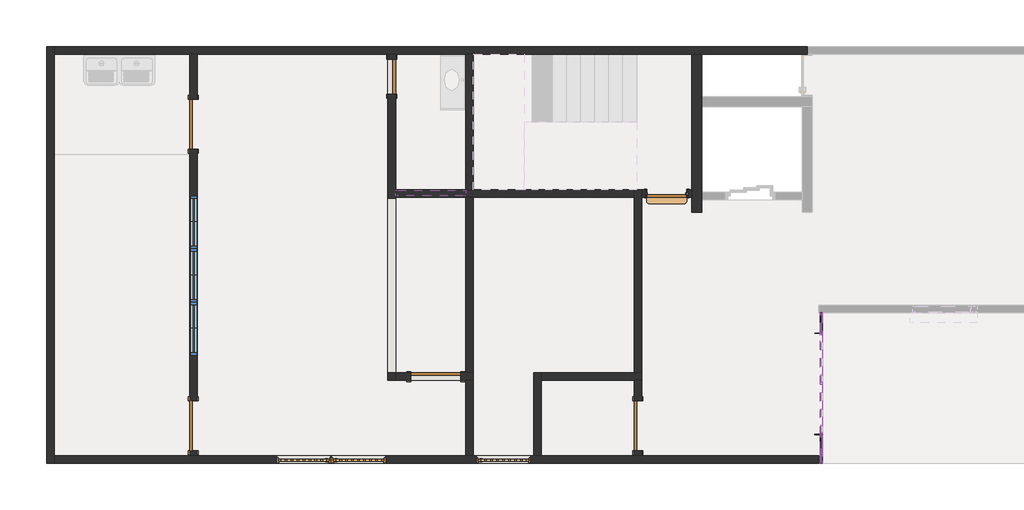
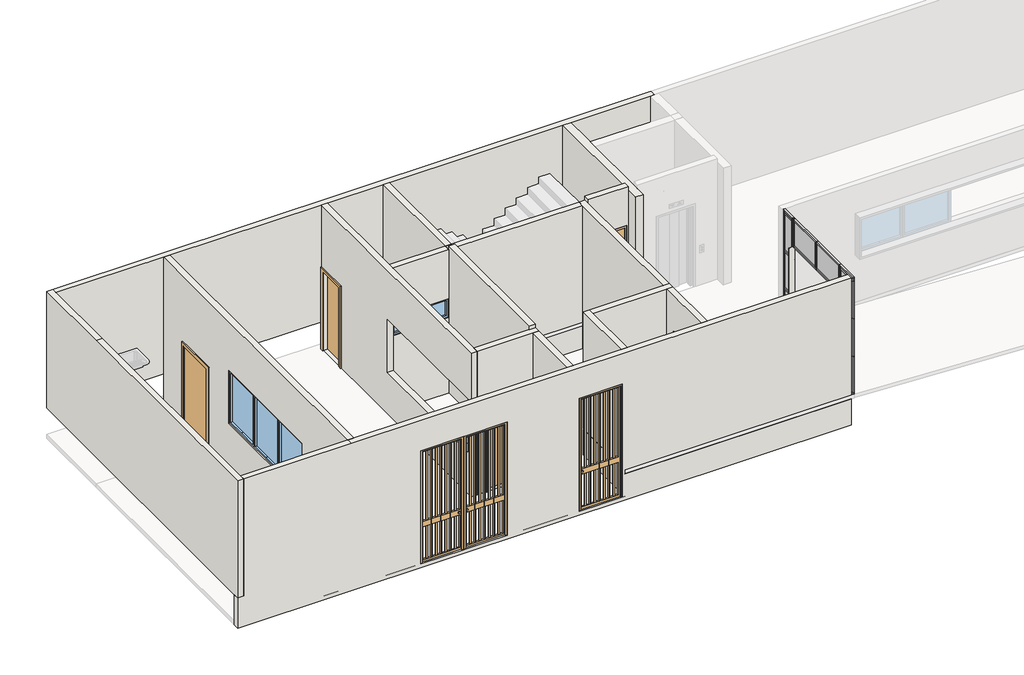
# One storey, part 1 of 3: 34 members, 18 walls, 10 plates, 9 doors, 4 windows.
"""IFC4 building model written with IfcOpenShell, lengths in millimetres."""

from ifc_helpers import new_model, si_unit, frame, origin, origin_with_axes, place, context, project, spatial, polyline, outline, extrude, faceted_brep, transform, mapped, element, save
from components import door_178cd8f4, door_f9ab2199, door_1000_x_2100_mm_661a7a0d, door_1000_x_2100_mm_77822ca1, door_700_x_2100_mm_6c6cf384, door_80_x_210_cm_69db3ced, rectangular_mullion_4x4_cm_offset_2cm_abfb5f02, rectangular_mullion_4x4_cm_offset_2cm_8188d6ec, rectangular_mullion_4x4_cm_offset_2cm_cc3df301, rectangular_mullion_4x4_cm_offset_2cm_a9974342, rectangular_mullion_4x4_cm_offset_2cm_97be8866, rectangular_mullion_4x4_cm_offset_2cm_e3c305ea, rectangular_mullion_4x4_cm_offset_2cm_8e4f37b2, rectangular_mullion_4x4_cm_offset_2cm_ccbd703a, rectangular_mullion_4x4_cm_offset_2cm_927117c5, rectangular_mullion_4x4_cm_offset_2cm_64f9428f, rectangular_mullion_4x4_cm_offset_2cm_845753c8, rectangular_mullion_4x4_cm_offset_2cm_22b40ebe, system_panel_vidro_2cm_738b5aa9, system_panel_vidro_2cm_fb46c9e9, system_panel_vidro_2cm_38d66d4f, system_panel_vidro_2cm_e86970eb, system_panel_vidro_2cm_c7f1786d, aluminum_exterior_window_2_wide_3886_1_06_x_1_40m_01332d29, aluminum_exterior_window_2_wide_3886_1_40_x_0_50m_8d64cb47

model = new_model("IFC4")

# Units and contexts
model_context = context("Model", 3, world=origin())
ifc_project = project(units=[si_unit("LENGTHUNIT", "METRE", prefix="MILLI")], contexts=[model_context])

# Site, building, storey
site = spatial("IfcSite", under=ifc_project)
building = spatial("IfcBuilding", under=site)
storey = spatial("IfcBuildingStorey", under=building, Name="PLANTA BAIXA TÉRREO", Elevation=800.0)

# Doors
placement = place(None, origin())
door_shape = door_178cd8f4(model_context)
element("IfcDoor", 1, ObjectType="Portão_metalico : Portão_metalico 1,00 x 3,00m", at=placement, inside=storey, context=model_context, shape_type="MappedRepresentation", body=[
    mapped(door_shape, transform((-8304.6326345, -10966.1116245, 100.0), x_axis=(1.0, 0.0, 0.0), y_axis=(0.0, 1.0, 0.0), z_axis=(0.0, 0.0, 1.0))),
])
element("IfcDoor", 2, ObjectType="Portão_metalico : Portão_metalico 1,00 x 3,00m - Manutenção", at=placement, inside=storey, context=model_context, shape_type="MappedRepresentation", body=[
    mapped(door_shape, transform((-11189.6326345, -10966.1116245, 100.0), x_axis=(1.0, 0.0, 0.0), y_axis=(0.0, 1.0, 0.0), z_axis=(0.0, 0.0, 1.0))),
])
door_2_shape = door_f9ab2199(model_context)
element("IfcDoor", 3, ObjectType="Portão_metalico : Portão_metalico 1,00 x 3,00m - Manutenção", at=placement, inside=storey, context=model_context, shape_type="MappedRepresentation", body=[
    mapped(door_2_shape, transform((-12279.6326345, -10966.1116245, 100.0), x_axis=(-1.0, 0.0, 0.0), y_axis=(0.0, -1.0, 0.0), z_axis=(0.0, 0.0, 1.0))),
])
door_1000_x_2100_mm_shape = door_1000_x_2100_mm_661a7a0d(model_context)
element("IfcDoor", 4, ObjectType="M_Folha única : 1000 x 2100 mm", at=placement, inside=storey, context=model_context, shape_type="MappedRepresentation", body=[
    mapped(door_1000_x_2100_mm_shape, transform((-5629.6326345, -10291.1116245, 800.0), x_axis=(0.0, -1.0, 0.0), y_axis=(1.0, 0.0, 0.0), z_axis=(0.0, 0.0, 1.0))),
])
element("IfcDoor", 5, ObjectType="M_Folha única : 1000 x 2100 mm", at=placement, inside=storey, context=model_context, shape_type="MappedRepresentation", body=[
    mapped(door_1000_x_2100_mm_shape, transform((-14479.6326345, -10291.1116245, 0.0), x_axis=(0.0, -1.0, 0.0), y_axis=(1.0, 0.0, 0.0), z_axis=(0.0, 0.0, 1.0))),
])
door_1000_x_2100_mm_2_shape = door_1000_x_2100_mm_77822ca1(model_context)
element("IfcDoor", 6, ObjectType="M_Folha única : 1000 x 2100 mm", at=placement, inside=storey, context=model_context, shape_type="MappedRepresentation", body=[
    mapped(door_1000_x_2100_mm_2_shape, transform((-9654.6326345, -9316.1116245, 100.0), x_axis=(1.0, 0.0, 0.0), y_axis=(0.0, 1.0, 0.0), z_axis=(0.0, 0.0, 1.0))),
])
element("IfcDoor", 7, ObjectType="M_Folha única : 1000 x 2100 mm", at=placement, inside=storey, context=model_context, shape_type="MappedRepresentation", body=[
    mapped(door_1000_x_2100_mm_2_shape, transform((-14479.6326345, -4291.1116245, 0.0), x_axis=(0.0, 1.0, 0.0), y_axis=(-1.0, 0.0, 0.0), z_axis=(0.0, 0.0, 1.0))),
])
door_700_x_2100_mm_shape = door_700_x_2100_mm_6c6cf384(model_context)
element("IfcDoor", 8, ObjectType="M_Folha única : 700 x 2100 mm", at=placement, inside=storey, context=model_context, shape_type="MappedRepresentation", body=[
    mapped(door_700_x_2100_mm_shape, transform((-10529.6326345, -3341.1116245, 100.0), x_axis=(0.0, 1.0, 0.0), y_axis=(-1.0, 0.0, 0.0), z_axis=(0.0, 0.0, 1.0))),
])
door_80_x_210_cm_shape = door_80_x_210_cm_69db3ced(model_context)
element("IfcDoor", 9, ObjectType="Dutch_door_-_2_stacked_leaves_2298 : 80 x 210 cm", at=placement, inside=storey, context=model_context, shape_type="MappedRepresentation", body=[
    mapped(door_80_x_210_cm_shape, transform((-5054.6326345, -5666.1116245, 800.0), x_axis=(-1.0, 0.0, 0.0), y_axis=(0.0, -1.0, 0.0), z_axis=(0.0, 0.0, 1.0))),
])

# Members
rectangular_mullion_4x4_cm_offset_2cm_shape = rectangular_mullion_4x4_cm_offset_2cm_abfb5f02(model_context)
element("IfcMember", 10, ObjectType="Rectangular Mullion : 4x4 cm - offset 2cm", at=placement, inside=storey, context=model_context, shape_type="MappedRepresentation", body=[
    mapped(rectangular_mullion_4x4_cm_offset_2cm_shape, transform((-1954.6326345, -8041.1116245, 840.0), x_axis=(0.0, 1.0, 0.0), y_axis=(1.0, 0.0, 0.0), z_axis=(0.0, 0.0, -1.0))),
])
element("IfcMember", 11, ObjectType="Rectangular Mullion : 4x4 cm - offset 2cm", at=placement, inside=storey, context=model_context, shape_type="MappedRepresentation", body=[
    mapped(rectangular_mullion_4x4_cm_offset_2cm_shape, transform((-1954.6326345, -10471.1116245, 840.0), x_axis=(0.0, 1.0, 0.0), y_axis=(1.0, 0.0, 0.0), z_axis=(0.0, 0.0, -1.0))),
])
rectangular_mullion_4x4_cm_offset_2cm_2_shape = rectangular_mullion_4x4_cm_offset_2cm_8188d6ec(model_context)
element("IfcMember", 12, ObjectType="Rectangular Mullion : 4x4 cm - offset 2cm", at=placement, inside=storey, context=model_context, shape_type="MappedRepresentation", body=[
    mapped(rectangular_mullion_4x4_cm_offset_2cm_2_shape, transform((-1954.6326345, -8451.1116245, 3860.0), x_axis=(0.0, -1.0, 0.0), y_axis=(1.0, 0.0, 0.0), z_axis=(0.0, 0.0, 1.0))),
])
element("IfcMember", 13, ObjectType="Rectangular Mullion : 4x4 cm - offset 2cm", at=placement, inside=storey, context=model_context, shape_type="MappedRepresentation", body=[
    mapped(rectangular_mullion_4x4_cm_offset_2cm_2_shape, transform((-1954.6326345, -11041.1116245, 3860.0), x_axis=(0.0, -1.0, 0.0), y_axis=(1.0, 0.0, 0.0), z_axis=(0.0, 0.0, 1.0))),
])
rectangular_mullion_4x4_cm_offset_2cm_3_shape = rectangular_mullion_4x4_cm_offset_2cm_cc3df301(model_context)
element("IfcMember", 14, ObjectType="Rectangular Mullion : 4x4 cm - offset 2cm", at=placement, inside=storey, context=model_context, shape_type="MappedRepresentation", body=[
    mapped(rectangular_mullion_4x4_cm_offset_2cm_3_shape, transform((-1954.6326345, -8041.1116245, 1800.0), x_axis=(0.0, 1.0, 0.0), y_axis=(1.0, 0.0, 0.0), z_axis=(0.0, 0.0, -1.0))),
])
element("IfcMember", 15, ObjectType="Rectangular Mullion : 4x4 cm - offset 2cm", at=placement, inside=storey, context=model_context, shape_type="MappedRepresentation", body=[
    mapped(rectangular_mullion_4x4_cm_offset_2cm_3_shape, transform((-1954.6326345, -8041.1116245, 2800.0), x_axis=(0.0, 1.0, 0.0), y_axis=(1.0, 0.0, 0.0), z_axis=(0.0, 0.0, -1.0))),
])
element("IfcMember", 16, ObjectType="Rectangular Mullion : 4x4 cm - offset 2cm", at=placement, inside=storey, context=model_context, shape_type="MappedRepresentation", body=[
    mapped(rectangular_mullion_4x4_cm_offset_2cm_3_shape, transform((-1954.6326345, -10471.1116245, 1800.0), x_axis=(0.0, 1.0, 0.0), y_axis=(1.0, 0.0, 0.0), z_axis=(0.0, 0.0, -1.0))),
])
element("IfcMember", 17, ObjectType="Rectangular Mullion : 4x4 cm - offset 2cm", at=placement, inside=storey, context=model_context, shape_type="MappedRepresentation", body=[
    mapped(rectangular_mullion_4x4_cm_offset_2cm_3_shape, transform((-1954.6326345, -10471.1116245, 2800.0), x_axis=(0.0, 1.0, 0.0), y_axis=(1.0, 0.0, 0.0), z_axis=(0.0, 0.0, -1.0))),
])
element("IfcMember", 18, ObjectType="Rectangular Mullion : 4x4 cm - offset 2cm", at=placement, inside=storey, context=model_context, shape_type="MappedRepresentation", body=[
    mapped(rectangular_mullion_4x4_cm_offset_2cm_2_shape, transform((-1954.6326345, -8041.1116245, 3800.0), x_axis=(0.0, 1.0, 0.0), y_axis=(1.0, 0.0, 0.0), z_axis=(0.0, 0.0, -1.0))),
])
element("IfcMember", 19, ObjectType="Rectangular Mullion : 4x4 cm - offset 2cm", at=placement, inside=storey, context=model_context, shape_type="MappedRepresentation", body=[
    mapped(rectangular_mullion_4x4_cm_offset_2cm_2_shape, transform((-1954.6326345, -10471.1116245, 3800.0), x_axis=(0.0, 1.0, 0.0), y_axis=(1.0, 0.0, 0.0), z_axis=(0.0, 0.0, -1.0))),
])
element("IfcMember", 20, ObjectType="Rectangular Mullion : 4x4 cm - offset 2cm", at=placement, inside=storey, context=model_context, shape_type="MappedRepresentation", body=[
    mapped(rectangular_mullion_4x4_cm_offset_2cm_shape, transform((-1954.6326345, -8451.1116245, 1800.0), x_axis=(0.0, -1.0, 0.0), y_axis=(1.0, 0.0, 0.0), z_axis=(0.0, 0.0, 1.0))),
])
element("IfcMember", 21, ObjectType="Rectangular Mullion : 4x4 cm - offset 2cm", at=placement, inside=storey, context=model_context, shape_type="MappedRepresentation", body=[
    mapped(rectangular_mullion_4x4_cm_offset_2cm_shape, transform((-1954.6326345, -11041.1116245, 1800.0), x_axis=(0.0, -1.0, 0.0), y_axis=(1.0, 0.0, 0.0), z_axis=(0.0, 0.0, 1.0))),
])
element("IfcMember", 22, ObjectType="Rectangular Mullion : 4x4 cm - offset 2cm", at=placement, inside=storey, context=model_context, shape_type="MappedRepresentation", body=[
    mapped(rectangular_mullion_4x4_cm_offset_2cm_3_shape, transform((-1954.6326345, -8451.1116245, 2800.0), x_axis=(0.0, -1.0, 0.0), y_axis=(1.0, 0.0, 0.0), z_axis=(0.0, 0.0, 1.0))),
])
element("IfcMember", 23, ObjectType="Rectangular Mullion : 4x4 cm - offset 2cm", at=placement, inside=storey, context=model_context, shape_type="MappedRepresentation", body=[
    mapped(rectangular_mullion_4x4_cm_offset_2cm_3_shape, transform((-1954.6326345, -8451.1116245, 3800.0), x_axis=(0.0, -1.0, 0.0), y_axis=(1.0, 0.0, 0.0), z_axis=(0.0, 0.0, 1.0))),
])
element("IfcMember", 24, ObjectType="Rectangular Mullion : 4x4 cm - offset 2cm", at=placement, inside=storey, context=model_context, shape_type="MappedRepresentation", body=[
    mapped(rectangular_mullion_4x4_cm_offset_2cm_3_shape, transform((-1954.6326345, -11041.1116245, 2800.0), x_axis=(0.0, -1.0, 0.0), y_axis=(1.0, 0.0, 0.0), z_axis=(0.0, 0.0, 1.0))),
])
element("IfcMember", 25, ObjectType="Rectangular Mullion : 4x4 cm - offset 2cm", at=placement, inside=storey, context=model_context, shape_type="MappedRepresentation", body=[
    mapped(rectangular_mullion_4x4_cm_offset_2cm_3_shape, transform((-1954.6326345, -11041.1116245, 3800.0), x_axis=(0.0, -1.0, 0.0), y_axis=(1.0, 0.0, 0.0), z_axis=(0.0, 0.0, 1.0))),
])
rectangular_mullion_4x4_cm_offset_2cm_4_shape = rectangular_mullion_4x4_cm_offset_2cm_a9974342(model_context)
element("IfcMember", 26, ObjectType="Rectangular Mullion : 4x4 cm - offset 2cm", at=placement, inside=storey, context=model_context, shape_type="MappedRepresentation", body=[
    mapped(rectangular_mullion_4x4_cm_offset_2cm_4_shape, transform((-1954.6326345, -11041.1116245, 800.0), x_axis=(0.0, 0.0, -1.0), y_axis=(1.0, 0.0, 0.0), z_axis=(0.0, -1.0, 0.0))),
])
rectangular_mullion_4x4_cm_offset_2cm_5_shape = rectangular_mullion_4x4_cm_offset_2cm_97be8866(model_context)
element("IfcMember", 27, ObjectType="Rectangular Mullion : 4x4 cm - offset 2cm", at=placement, inside=storey, context=model_context, shape_type="MappedRepresentation", body=[
    mapped(rectangular_mullion_4x4_cm_offset_2cm_5_shape, transform((-1954.6326345, -10511.1116245, 1800.0), x_axis=(0.0, 0.0, 1.0), y_axis=(1.0, 0.0, 0.0), z_axis=(0.0, 1.0, 0.0))),
])
element("IfcMember", 28, ObjectType="Rectangular Mullion : 4x4 cm - offset 2cm", at=placement, inside=storey, context=model_context, shape_type="MappedRepresentation", body=[
    mapped(rectangular_mullion_4x4_cm_offset_2cm_5_shape, transform((-1954.6326345, -10511.1116245, 2800.0), x_axis=(0.0, 0.0, 1.0), y_axis=(1.0, 0.0, 0.0), z_axis=(0.0, 1.0, 0.0))),
])
element("IfcMember", 29, ObjectType="Rectangular Mullion : 4x4 cm - offset 2cm", at=placement, inside=storey, context=model_context, shape_type="MappedRepresentation", body=[
    mapped(rectangular_mullion_4x4_cm_offset_2cm_5_shape, transform((-1954.6326345, -10511.1116245, 3800.0), x_axis=(0.0, 0.0, 1.0), y_axis=(1.0, 0.0, 0.0), z_axis=(0.0, 1.0, 0.0))),
])
rectangular_mullion_4x4_cm_offset_2cm_6_shape = rectangular_mullion_4x4_cm_offset_2cm_e3c305ea(model_context)
element("IfcMember", 30, ObjectType="Rectangular Mullion : 4x4 cm - offset 2cm", at=placement, inside=storey, context=model_context, shape_type="MappedRepresentation", body=[
    mapped(rectangular_mullion_4x4_cm_offset_2cm_6_shape, transform((-1954.6326345, -8451.1116245, 800.0), x_axis=(0.0, 0.0, -1.0), y_axis=(1.0, 0.0, 0.0), z_axis=(0.0, -1.0, 0.0))),
])
rectangular_mullion_4x4_cm_offset_2cm_7_shape = rectangular_mullion_4x4_cm_offset_2cm_8e4f37b2(model_context)
element("IfcMember", 31, ObjectType="Rectangular Mullion : 4x4 cm - offset 2cm", at=placement, inside=storey, context=model_context, shape_type="MappedRepresentation", body=[
    mapped(rectangular_mullion_4x4_cm_offset_2cm_7_shape, transform((-1954.6326345, -8081.1116245, 1800.0), x_axis=(0.0, 0.0, 1.0), y_axis=(1.0, 0.0, 0.0), z_axis=(0.0, 1.0, 0.0))),
])
element("IfcMember", 32, ObjectType="Rectangular Mullion : 4x4 cm - offset 2cm", at=placement, inside=storey, context=model_context, shape_type="MappedRepresentation", body=[
    mapped(rectangular_mullion_4x4_cm_offset_2cm_7_shape, transform((-1954.6326345, -8081.1116245, 2800.0), x_axis=(0.0, 0.0, 1.0), y_axis=(1.0, 0.0, 0.0), z_axis=(0.0, 1.0, 0.0))),
])
element("IfcMember", 33, ObjectType="Rectangular Mullion : 4x4 cm - offset 2cm", at=placement, inside=storey, context=model_context, shape_type="MappedRepresentation", body=[
    mapped(rectangular_mullion_4x4_cm_offset_2cm_7_shape, transform((-1954.6326345, -8081.1116245, 3800.0), x_axis=(0.0, 0.0, 1.0), y_axis=(1.0, 0.0, 0.0), z_axis=(0.0, 1.0, 0.0))),
])
element("IfcMember", 34, ObjectType="Rectangular Mullion : 4x4 cm - offset 2cm", at=placement, inside=storey, context=model_context, shape_type="MappedRepresentation", body=[
    mapped(rectangular_mullion_4x4_cm_offset_2cm_6_shape, transform((-1954.6326345, -8041.1116245, 3900.0), x_axis=(0.0, 0.0, 1.0), y_axis=(1.0, 0.0, 0.0), z_axis=(0.0, 1.0, 0.0))),
])
rectangular_mullion_4x4_cm_offset_2cm_8_shape = rectangular_mullion_4x4_cm_offset_2cm_ccbd703a(model_context)
element("IfcMember", 35, ObjectType="Rectangular Mullion : 4x4 cm - offset 2cm", at=placement, inside=storey, context=model_context, shape_type="MappedRepresentation", body=[
    mapped(rectangular_mullion_4x4_cm_offset_2cm_8_shape, transform((-1954.6326345, -10471.1116245, 3150.0), x_axis=(0.0, 0.0, -1.0), y_axis=(1.0, 0.0, 0.0), z_axis=(0.0, -1.0, 0.0))),
])
element("IfcMember", 36, ObjectType="Rectangular Mullion : 4x4 cm - offset 2cm", at=placement, inside=storey, context=model_context, shape_type="MappedRepresentation", body=[
    mapped(rectangular_mullion_4x4_cm_offset_2cm_8_shape, transform((-1954.6326345, -9471.1116242, 3900.0), x_axis=(0.0, 0.0, 1.0), y_axis=(1.0, 0.0, 0.0), z_axis=(0.0, 1.0, 0.0))),
])
rectangular_mullion_4x4_cm_offset_2cm_9_shape = rectangular_mullion_4x4_cm_offset_2cm_927117c5(model_context)
element("IfcMember", 37, ObjectType="Rectangular Mullion : 4x4 cm - offset 2cm", at=placement, inside=storey, context=model_context, shape_type="MappedRepresentation", body=[
    mapped(rectangular_mullion_4x4_cm_offset_2cm_9_shape, transform((-1954.6326345, -8431.1116242, 3900.0), x_axis=(0.0, 0.0, 1.0), y_axis=(1.0, 0.0, 0.0), z_axis=(0.0, 1.0, 0.0))),
])
element("IfcMember", 38, ObjectType="Rectangular Mullion : 4x4 cm - offset 2cm", at=placement, inside=storey, context=model_context, shape_type="MappedRepresentation", body=[
    mapped(rectangular_mullion_4x4_cm_offset_2cm_9_shape, transform((-1954.6326345, -9471.1116242, 3150.0), x_axis=(0.0, 0.0, -1.0), y_axis=(1.0, 0.0, 0.0), z_axis=(0.0, -1.0, 0.0))),
])
element("IfcMember", 39, ObjectType="Rectangular Mullion : 4x4 cm - offset 2cm", at=placement, inside=storey, context=model_context, shape_type="MappedRepresentation", body=[
    mapped(rectangular_mullion_4x4_cm_offset_2cm_4_shape, transform((-1954.6326345, -10471.1116245, 3900.0), x_axis=(0.0, 0.0, 1.0), y_axis=(1.0, 0.0, 0.0), z_axis=(0.0, 1.0, 0.0))),
])
rectangular_mullion_4x4_cm_offset_2cm_10_shape = rectangular_mullion_4x4_cm_offset_2cm_64f9428f(model_context)
element("IfcMember", 40, ObjectType="Rectangular Mullion : 4x4 cm - offset 2cm", at=placement, inside=storey, context=model_context, shape_type="MappedRepresentation", body=[
    mapped(rectangular_mullion_4x4_cm_offset_2cm_10_shape, transform((-1954.6326345, -9471.1116242, 3190.0), x_axis=(0.0, 1.0, 0.0), y_axis=(1.0, 0.0, 0.0), z_axis=(0.0, 0.0, -1.0))),
])
element("IfcMember", 41, ObjectType="Rectangular Mullion : 4x4 cm - offset 2cm", at=placement, inside=storey, context=model_context, shape_type="MappedRepresentation", body=[
    mapped(rectangular_mullion_4x4_cm_offset_2cm_10_shape, transform((-1954.6326345, -8471.1116242, 3190.0), x_axis=(0.0, 1.0, 0.0), y_axis=(1.0, 0.0, 0.0), z_axis=(0.0, 0.0, -1.0))),
])
rectangular_mullion_4x4_cm_offset_2cm_11_shape = rectangular_mullion_4x4_cm_offset_2cm_845753c8(model_context)
element("IfcMember", 42, ObjectType="Rectangular Mullion : 4x4 cm - offset 2cm", at=placement, inside=storey, context=model_context, shape_type="MappedRepresentation", body=[
    mapped(rectangular_mullion_4x4_cm_offset_2cm_11_shape, transform((-1954.6326345, -8451.1116245, 3150.0), x_axis=(0.0, 1.0, 0.0), y_axis=(1.0, 0.0, 0.0), z_axis=(0.0, 0.0, -1.0))),
])
rectangular_mullion_4x4_cm_offset_2cm_12_shape = rectangular_mullion_4x4_cm_offset_2cm_22b40ebe(model_context)
element("IfcMember", 43, ObjectType="Rectangular Mullion : 4x4 cm - offset 2cm", at=placement, inside=storey, context=model_context, shape_type="MappedRepresentation", body=[
    mapped(rectangular_mullion_4x4_cm_offset_2cm_12_shape, transform((-1954.6326345, -10471.1116245, 3860.0), x_axis=(0.0, -1.0, 0.0), y_axis=(1.0, 0.0, 0.0), z_axis=(0.0, 0.0, 1.0))),
])

# Plates
system_panel_vidro_2cm_shape = system_panel_vidro_2cm_738b5aa9(model_context)
element("IfcPlate", 44, ObjectType="System Panel : Vidro 2cm", at=placement, inside=storey, context=model_context, shape_type="MappedRepresentation", body=[
    mapped(system_panel_vidro_2cm_shape, transform((-1954.6326345, -10756.1116245, 840.0), x_axis=(0.0, 1.0, 0.0), y_axis=(-1.0, 0.0, 0.0), z_axis=(0.0, 0.0, 1.0))),
])
element("IfcPlate", 45, ObjectType="System Panel : Vidro 2cm", at=placement, inside=storey, context=model_context, shape_type="MappedRepresentation", body=[
    mapped(system_panel_vidro_2cm_shape, transform((-1954.6326345, -10756.1116245, 1840.0), x_axis=(0.0, 1.0, 0.0), y_axis=(-1.0, 0.0, 0.0), z_axis=(0.0, 0.0, 1.0))),
])
element("IfcPlate", 46, ObjectType="System Panel : Vidro 2cm", at=placement, inside=storey, context=model_context, shape_type="MappedRepresentation", body=[
    mapped(system_panel_vidro_2cm_shape, transform((-1954.6326345, -10756.1116245, 2840.0), x_axis=(0.0, 1.0, 0.0), y_axis=(-1.0, 0.0, 0.0), z_axis=(0.0, 0.0, 1.0))),
])
system_panel_vidro_2cm_2_shape = system_panel_vidro_2cm_fb46c9e9(model_context)
element("IfcPlate", 47, ObjectType="System Panel : Vidro 2cm", at=placement, inside=storey, context=model_context, shape_type="MappedRepresentation", body=[
    mapped(system_panel_vidro_2cm_2_shape, transform((-1954.6326345, -10756.1116245, 3840.0), x_axis=(0.0, 1.0, 0.0), y_axis=(-1.0, 0.0, 0.0), z_axis=(0.0, 0.0, 1.0))),
])
system_panel_vidro_2cm_3_shape = system_panel_vidro_2cm_38d66d4f(model_context)
element("IfcPlate", 48, ObjectType="System Panel : Vidro 2cm", at=placement, inside=storey, context=model_context, shape_type="MappedRepresentation", body=[
    mapped(system_panel_vidro_2cm_3_shape, transform((-1954.6326345, -8246.1116245, 840.0), x_axis=(0.0, 1.0, 0.0), y_axis=(-1.0, 0.0, 0.0), z_axis=(0.0, 0.0, 1.0))),
])
element("IfcPlate", 49, ObjectType="System Panel : Vidro 2cm", at=placement, inside=storey, context=model_context, shape_type="MappedRepresentation", body=[
    mapped(system_panel_vidro_2cm_3_shape, transform((-1954.6326345, -8246.1116245, 1840.0), x_axis=(0.0, 1.0, 0.0), y_axis=(-1.0, 0.0, 0.0), z_axis=(0.0, 0.0, 1.0))),
])
element("IfcPlate", 50, ObjectType="System Panel : Vidro 2cm", at=placement, inside=storey, context=model_context, shape_type="MappedRepresentation", body=[
    mapped(system_panel_vidro_2cm_3_shape, transform((-1954.6326345, -8246.1116245, 2840.0), x_axis=(0.0, 1.0, 0.0), y_axis=(-1.0, 0.0, 0.0), z_axis=(0.0, 0.0, 1.0))),
])
system_panel_vidro_2cm_4_shape = system_panel_vidro_2cm_e86970eb(model_context)
element("IfcPlate", 51, ObjectType="System Panel : Vidro 2cm", at=placement, inside=storey, context=model_context, shape_type="MappedRepresentation", body=[
    mapped(system_panel_vidro_2cm_4_shape, transform((-1954.6326345, -8246.1116245, 3840.0), x_axis=(0.0, 1.0, 0.0), y_axis=(-1.0, 0.0, 0.0), z_axis=(0.0, 0.0, 1.0))),
])
system_panel_vidro_2cm_5_shape = system_panel_vidro_2cm_c7f1786d(model_context)
element("IfcPlate", 52, ObjectType="System Panel : Vidro 2cm", at=placement, inside=storey, context=model_context, shape_type="MappedRepresentation", body=[
    mapped(system_panel_vidro_2cm_5_shape, transform((-1954.6326345, -9951.1116244, 3190.0), x_axis=(0.0, 1.0, 0.0), y_axis=(-1.0, 0.0, 0.0), z_axis=(0.0, 0.0, 1.0))),
])
element("IfcPlate", 53, ObjectType="System Panel : Vidro 2cm", at=placement, inside=storey, context=model_context, shape_type="MappedRepresentation", body=[
    mapped(system_panel_vidro_2cm_5_shape, transform((-1954.6326345, -8951.1116242, 3190.0), x_axis=(0.0, 1.0, 0.0), y_axis=(-1.0, 0.0, 0.0), z_axis=(0.0, 0.0, 1.0))),
])

# Walls
element("IfcWall", 54, ObjectType="Genérica - 15cm", at=placement, inside=storey, context=model_context, shape_type="Brep", body=[
    faceted_brep([(-17254.6326345, -11041.1116245, 800.0), (-17254.6326345, -10891.1116245, 800.0), (-17254.6326345, -2891.1116245, 800.0), (-17254.6326345, -2741.1116245, 800.0), (-17254.6326345, -2741.1116245, 3900.0), (-17254.6326345, -2891.1116245, 3900.0), (-17254.6326345, -4891.1116245, 3900.0), (-17254.6326345, -10891.1116245, 3900.0), (-17254.6326345, -11041.1116245, 3900.0), (-17404.6326345, -11041.1116245, 800.0), (-17404.6326345, -11041.1116245, 3900.0), (-17404.6326345, -4891.1116245, 3900.0), (-17404.6326345, -2741.1116245, 3900.0), (-17404.6326345, -2741.1116245, 800.0), (-17404.6326345, -2891.1116245, 800.0), (-17404.6326345, -10891.1116245, 800.0)], [[[0, 1, 2, 3, 4, 5, 6, 7, 8]], [[9, 10, 11, 12, 13, 14, 15]], [[3, 2, 1, 0, 9, 15, 14, 13]], [[4, 3, 13, 12]], [[8, 7, 6, 11, 10]], [[6, 5, 4, 12, 11]], [[0, 8, 10, 9]]]),
])
element("IfcWall", 55, ObjectType="Genérica - 15cm", at=placement, inside=storey, context=model_context, shape_type="Brep", body=[
    faceted_brep([(-17254.6326345, -2891.1116245, 800.0), (-9054.6326345, -2891.1116245, 800.0), (-8904.6326345, -2891.1116245, 800.0), (-4554.6326345, -2891.1116245, 800.0), (-4354.6326345, -2891.1116245, 800.0), (-2354.6326345, -2891.1116245, 800.0), (-2254.6326345, -2891.1116245, 800.0), (-2254.6326345, -2891.1116245, 3900.0), (-2354.6326345, -2891.1116245, 3900.0), (-4354.6326345, -2891.1116245, 3900.0), (-4554.6326345, -2891.1116245, 3900.0), (-8904.6326345, -2891.1116245, 3900.0), (-9054.6326345, -2891.1116245, 3900.0), (-10454.6326345, -2891.1116245, 3900.0), (-10604.6326345, -2891.1116245, 3900.0), (-14404.6326345, -2891.1116245, 3900.0), (-14554.6326345, -2891.1116245, 3900.0), (-17254.6326345, -2891.1116245, 3900.0), (-17254.6326345, -2741.1116245, 800.0), (-17254.6326345, -2741.1116245, 3900.0), (-2254.6326345, -2741.1116245, 3900.0), (-2254.6326345, -2741.1116245, 800.0), (-9054.6326345, -2741.1116245, 800.0)], [[[0, 1, 2, 3, 4, 5, 6, 7, 8, 9, 10, 11, 12, 13, 14, 15, 16, 17]], [[18, 19, 20, 21, 22]], [[6, 5, 4, 3, 2, 1, 0, 18, 22, 21]], [[7, 6, 21, 20]], [[0, 17, 19, 18]], [[17, 16, 15, 14, 13, 12, 11, 10, 9, 8, 7, 20, 19]]]),
])
element("IfcWall", 56, ObjectType="Genérica - 15cm", at=placement, inside=storey, context=model_context, shape_type="Brep", body=[
    faceted_brep([(-17404.6326345, -11041.1116245, 0.0), (-2029.6326345, -11041.1116245, 0.0), (-2029.6326345, -11041.1116245, 640.0), (-2029.6326345, -11041.1116245, 700.0), (-7704.6326345, -11041.1116245, 700.0), (-7704.6326345, -11041.1116245, 800.0), (-2029.6326345, -11041.1116245, 800.0), (-2029.6326345, -11041.1116245, 3900.0), (-14554.6326345, -11041.1116245, 3900.0), (-17254.6326345, -11041.1116245, 3900.0), (-17254.6326345, -11041.1116245, 800.0), (-17404.6326345, -11041.1116245, 800.0), (-7764.6326345, -11041.1116245, 3100.0), (-7764.6326345, -11041.1116245, 100.0), (-8844.6326345, -11041.1116245, 100.0), (-8844.6326345, -11041.1116245, 3100.0), (-12819.6326345, -11041.1116245, 100.0), (-12819.6326345, -11041.1116245, 3100.0), (-11739.6326345, -11041.1116245, 3100.0), (-11739.6326345, -11041.1116245, 100.0), (-10649.6326345, -11041.1116245, 3100.0), (-10649.6326345, -11041.1116245, 100.0), (-11729.6326345, -11041.1116245, 100.0), (-11729.6326345, -11041.1116245, 3100.0), (-2029.6326345, -10891.1116245, 0.0), (-7554.6326345, -10891.1116245, 0.0), (-7704.6326345, -10891.1116245, 0.0), (-8904.6326345, -10891.1116245, 0.0), (-9054.6326345, -10891.1116245, 0.0), (-17254.6326345, -10891.1116245, 0.0), (-17404.6326345, -10891.1116245, 0.0), (-17404.6326345, -10891.1116245, 800.0), (-17254.6326345, -10891.1116245, 800.0), (-17254.6326345, -10891.1116245, 3900.0), (-14554.6326345, -10891.1116245, 3900.0), (-14404.6326345, -10891.1116245, 3900.0), (-9054.6326345, -10891.1116245, 3900.0), (-8904.6326345, -10891.1116245, 3900.0), (-7704.6326345, -10891.1116245, 3900.0), (-7554.6326345, -10891.1116245, 3900.0), (-5704.6326345, -10891.1116245, 3900.0), (-5554.6326345, -10891.1116245, 3900.0), (-2029.6326345, -10891.1116245, 3900.0), (-2029.6326345, -10891.1116245, 800.0), (-5554.6326345, -10891.1116245, 800.0), (-5704.6326345, -10891.1116245, 800.0), (-7704.6326345, -10891.1116245, 800.0), (-7704.6326345, -10891.1116245, 700.0), (-2029.6326345, -10891.1116245, 700.0), (-2029.6326345, -10891.1116245, 640.0), (-7764.6326345, -10891.1116245, 100.0), (-7764.6326345, -10891.1116245, 3100.0), (-8844.6326345, -10891.1116245, 3100.0), (-8844.6326345, -10891.1116245, 100.0), (-12819.6326345, -10891.1116245, 3100.0), (-12819.6326345, -10891.1116245, 100.0), (-11739.6326345, -10891.1116245, 100.0), (-11739.6326345, -10891.1116245, 3100.0), (-10649.6326345, -10891.1116245, 100.0), (-10649.6326345, -10891.1116245, 3100.0), (-11729.6326345, -10891.1116245, 3100.0), (-11729.6326345, -10891.1116245, 100.0)], [[[0, 1, 2, 3, 4, 5, 6, 7, 8, 9, 10, 11], [12, 13, 14, 15], [16, 17, 18, 19], [20, 21, 22, 23]], [[24, 25, 26, 27, 28, 29, 30, 31, 32, 33, 34, 35, 36, 37, 38, 39, 40, 41, 42, 43, 44, 45, 46, 47, 48, 49], [50, 51, 52, 53], [54, 55, 56, 57], [58, 59, 60, 61]], [[1, 0, 30, 29, 28, 27, 26, 25, 24]], [[1, 24, 49, 48, 3, 2]], [[42, 7, 6, 43]], [[34, 33, 9, 8]], [[8, 7, 42, 41, 40, 39, 38, 37, 36, 35, 34]], [[50, 13, 12, 51]], [[51, 12, 15, 52]], [[14, 53, 52, 15]], [[13, 50, 53, 14]], [[16, 55, 54, 17]], [[17, 54, 57, 18]], [[56, 19, 18, 57]], [[55, 16, 19, 56]], [[58, 21, 20, 59]], [[59, 20, 23, 60]], [[22, 61, 60, 23]], [[21, 58, 61, 22]], [[32, 31, 11, 10]], [[30, 0, 11, 31]], [[9, 33, 32, 10]], [[47, 4, 3, 48]], [[5, 46, 45, 44, 43, 6]], [[4, 47, 46, 5]]]),
])
element("IfcWall", 57, ObjectType="Genérica - 15cm", at=placement, inside=storey, context=model_context, shape_type="Brep", body=[
    faceted_brep([(-14554.6326345, -10891.1116245, 3900.0), (-14554.6326345, -4891.1116245, 3900.0), (-14554.6326345, -2891.1116245, 3900.0), (-14554.6326345, -2891.1116245, 100.0), (-14554.6326345, -3791.1116245, 100.0), (-14554.6326345, -3791.1116245, 2100.0), (-14554.6326345, -4791.1116245, 2100.0), (-14554.6326345, -4791.1116245, 100.0), (-14554.6326345, -9791.1116245, 100.0), (-14554.6326345, -9791.1116245, 2100.0), (-14554.6326345, -10791.1116245, 2100.0), (-14554.6326345, -10791.1116245, 100.0), (-14554.6326345, -10891.1116245, 100.0), (-14554.6326345, -8891.1116245, 2600.0), (-14554.6326345, -8891.1116245, 1200.0), (-14554.6326345, -5711.1116245, 1200.0), (-14554.6326345, -5711.1116245, 2600.0), (-14404.6326345, -2891.1116245, 3900.0), (-14404.6326345, -10891.1116245, 3900.0), (-14404.6326345, -10891.1116245, 100.0), (-14404.6326345, -10791.1116245, 100.0), (-14404.6326345, -10791.1116245, 2100.0), (-14404.6326345, -9791.1116245, 2100.0), (-14404.6326345, -9791.1116245, 100.0), (-14404.6326345, -4791.1116245, 100.0), (-14404.6326345, -4791.1116245, 2100.0), (-14404.6326345, -3791.1116245, 2100.0), (-14404.6326345, -3791.1116245, 100.0), (-14404.6326345, -2891.1116245, 100.0), (-14404.6326345, -8891.1116245, 1200.0), (-14404.6326345, -8891.1116245, 2600.0), (-14404.6326345, -5711.1116245, 2600.0), (-14404.6326345, -5711.1116245, 1200.0)], [[[0, 1, 2, 3, 4, 5, 6, 7, 8, 9, 10, 11, 12], [13, 14, 15, 16]], [[17, 18, 19, 20, 21, 22, 23, 24, 25, 26, 27, 28], [29, 30, 31, 32]], [[3, 28, 27, 4]], [[19, 12, 11, 20]], [[23, 8, 7, 24]], [[18, 17, 2, 1, 0]], [[14, 29, 32, 15]], [[30, 29, 14, 13]], [[30, 13, 16, 31]], [[31, 16, 15, 32]], [[0, 12, 19, 18]], [[2, 17, 28, 3]], [[10, 21, 20, 11]], [[21, 10, 9, 22]], [[22, 9, 8, 23]], [[26, 5, 4, 27]], [[5, 26, 25, 6]], [[6, 25, 24, 7]]]),
])
element("IfcWall", 58, ObjectType="Genérica - 15cm", at=placement, inside=storey, context=model_context, shape_type="Brep", body=[
    faceted_brep([(-10604.6326345, -2891.1116245, 0.0), (-10604.6326345, -9391.1116245, 0.0), (-10604.6326345, -9391.1116245, 3900.0), (-10604.6326345, -2891.1116245, 3900.0), (-10604.6326345, -3691.1116245, 100.0), (-10604.6326345, -2991.1116245, 100.0), (-10604.6326345, -2991.1116245, 2200.0), (-10604.6326345, -3691.1116245, 2200.0), (-10604.6326345, -5761.1116245, 2600.0), (-10604.6326345, -9241.1116245, 2600.0), (-10604.6326345, -9241.1116245, 1200.0), (-10604.6326345, -5761.1116245, 1200.0), (-10454.6326345, -9391.1116245, 0.0), (-10454.6326345, -9241.1116245, 0.0), (-10454.6326345, -5741.1116245, 0.0), (-10454.6326345, -5591.1116245, 0.0), (-10454.6326345, -2891.1116245, 0.0), (-10454.6326345, -2891.1116245, 3900.0), (-10454.6326345, -5591.1116245, 3900.0), (-10454.6326345, -5741.1116245, 3900.0), (-10454.6326345, -9241.1116245, 3900.0), (-10454.6326345, -9391.1116245, 3900.0), (-10454.6326345, -3691.1116245, 100.0), (-10454.6326345, -3691.1116245, 2200.0), (-10454.6326345, -2991.1116245, 2200.0), (-10454.6326345, -2991.1116245, 100.0), (-10454.6326345, -9241.1116245, 2600.0), (-10454.6326345, -5761.1116245, 2600.0), (-10454.6326345, -5761.1116245, 1200.0), (-10454.6326345, -9241.1116245, 1200.0)], [[[0, 1, 2, 3], [4, 5, 6, 7], [8, 9, 10, 11]], [[12, 13, 14, 15, 16, 17, 18, 19, 20, 21], [22, 23, 24, 25], [26, 27, 28, 29]], [[1, 0, 16, 15, 14, 13, 12]], [[2, 1, 12, 21]], [[17, 3, 2, 21, 20, 19, 18]], [[5, 4, 22, 25]], [[6, 5, 25, 24]], [[7, 6, 24, 23]], [[4, 7, 23, 22]], [[26, 9, 8, 27]], [[10, 29, 28, 11]], [[9, 26, 29, 10]], [[27, 8, 11, 28]], [[3, 17, 16, 0]]]),
])
element("IfcWall", 59, ObjectType="Genérica - 15cm", at=placement, inside=storey, context=model_context, shape_type="Brep", body=[
    faceted_brep([(-10454.6326345, -9391.1116245, 0.0), (-9054.6326345, -9391.1116245, 0.0), (-8904.6326345, -9391.1116245, 0.0), (-8904.6326345, -9391.1116245, 3900.0), (-9054.6326345, -9391.1116245, 3900.0), (-10454.6326345, -9391.1116245, 3900.0), (-10154.6326345, -9391.1116245, 100.0), (-10154.6326345, -9391.1116245, 2200.0), (-9154.6326345, -9391.1116245, 2200.0), (-9154.6326345, -9391.1116245, 100.0), (-10454.6326345, -9241.1116245, 0.0), (-10454.6326345, -9241.1116245, 1100.0), (-10454.6326345, -9241.1116245, 2500.0), (-10454.6326345, -9241.1116245, 3900.0), (-9054.6326345, -9241.1116245, 3900.0), (-8904.6326345, -9241.1116245, 3900.0), (-8904.6326345, -9241.1116245, 0.0), (-9054.6326345, -9241.1116245, 0.0), (-10154.6326345, -9241.1116245, 100.0), (-9154.6326345, -9241.1116245, 100.0), (-9154.6326345, -9241.1116245, 2200.0), (-10154.6326345, -9241.1116245, 2200.0)], [[[0, 1, 2, 3, 4, 5], [6, 7, 8, 9]], [[10, 11, 12, 13, 14, 15, 16, 17], [18, 19, 20, 21]], [[2, 1, 0, 10, 17, 16]], [[0, 5, 13, 12, 11, 10]], [[3, 2, 16, 15]], [[5, 4, 3, 15, 14, 13]], [[19, 18, 6, 9]], [[20, 19, 9, 8]], [[21, 20, 8, 7]], [[18, 21, 7, 6]]]),
])
element("IfcWall", 60, ObjectType="Genérica - 15cm", at=placement, inside=storey, context=model_context, shape_type="SweptSolid", body=[
    extrude(outline(polyline([(-9054.6326345, -10891.1116245), (-9054.6326345, -9391.1116245), (-8904.6326345, -9391.1116245), (-8904.6326345, -10891.1116245), (-9054.6326345, -10891.1116245)])), origin_with_axes(), (0.0, 0.0, 1.0), 3900.0),
])
element("IfcWall", 61, ObjectType="Genérica - 15cm", at=placement, inside=storey, context=model_context, shape_type="Brep", body=[
    faceted_brep([(-7554.6326345, -10891.1116245, 0.0), (-7554.6326345, -9391.1116245, 0.0), (-7554.6326345, -9241.1116245, 0.0), (-7554.6326345, -9241.1116245, 3900.0), (-7554.6326345, -9391.1116245, 3900.0), (-7554.6326345, -10891.1116245, 3900.0), (-7704.6326345, -10891.1116245, 0.0), (-7704.6326345, -10891.1116245, 3900.0), (-7704.6326345, -9241.1116245, 3900.0), (-7704.6326345, -9241.1116245, 0.0)], [[[0, 1, 2, 3, 4, 5]], [[6, 7, 8, 9]], [[2, 1, 0, 6, 9]], [[0, 5, 7, 6]], [[3, 2, 9, 8]], [[5, 4, 3, 8, 7]]]),
])
element("IfcWall", 62, ObjectType="Genérica - 15cm", at=placement, inside=storey, context=model_context, shape_type="Brep", body=[
    faceted_brep([(-7554.6326345, -9391.1116245, 0.0), (-5554.6326345, -9391.1116245, 0.0), (-5554.6326345, -9391.1116245, 700.0), (-7554.6326345, -9391.1116245, 700.0), (-5554.6326345, -9241.1116245, 700.0), (-5554.6326345, -9241.1116245, 0.0), (-5704.6326345, -9241.1116245, 0.0), (-7554.6326345, -9241.1116245, 0.0), (-7554.6326345, -9241.1116245, 100.0), (-7554.6326345, -9241.1116245, 700.0), (-5704.6326345, -9241.1116245, 700.0)], [[[0, 1, 2, 3]], [[4, 5, 6, 7, 8, 9, 10]], [[1, 0, 7, 6, 5]], [[7, 0, 3, 9, 8]], [[1, 5, 4, 2]], [[3, 2, 4, 10, 9]]]),
    faceted_brep([(-5554.6326345, -9391.1116245, 3900.0), (-5704.6326345, -9391.1116245, 3900.0), (-7554.6326345, -9391.1116245, 3900.0), (-7554.6326345, -9391.1116245, 800.0), (-5704.6326345, -9391.1116245, 800.0), (-5554.6326345, -9391.1116245, 800.0), (-7554.6326345, -9241.1116245, 3900.0), (-5704.6326345, -9241.1116245, 3900.0), (-5554.6326345, -9241.1116245, 3900.0), (-5554.6326345, -9241.1116245, 800.0), (-5704.6326345, -9241.1116245, 800.0), (-7554.6326345, -9241.1116245, 800.0)], [[[0, 1, 2, 3, 4, 5]], [[6, 7, 8, 9, 10, 11]], [[2, 6, 11, 3]], [[2, 1, 0, 8, 7, 6]], [[8, 0, 5, 9]], [[5, 4, 3, 11, 10, 9]]]),
])
element("IfcWall", 63, ObjectType="Genérica - 15cm", at=placement, inside=storey, context=model_context, shape_type="SweptSolid", body=[
    extrude(outline(polyline([(-10791.1116245, 2900.0), (-10791.1116245, 800.0), (-10891.1116245, 800.0), (-10891.1116245, 3900.0), (-9391.1116245, 3900.0), (-9391.1116245, 800.0), (-9791.1116245, 800.0), (-9791.1116245, 2900.0), (-10791.1116245, 2900.0)])), frame((-5704.6326345, 0.0, 0.0), z_axis=(1.0, 0.0, 0.0), x_axis=(0.0, 1.0, 0.0)), (0.0, 0.0, 1.0), 150.0),
])
element("IfcWall", 64, ObjectType="Genérica - 15cm", at=placement, inside=storey, context=model_context, shape_type="Brep", body=[
    faceted_brep([(-5554.6326345, -9241.1116245, 0.0), (-5554.6326345, -5591.1116245, 0.0), (-5554.6326345, -5591.1116245, 800.0), (-5554.6326345, -5591.1116245, 3900.0), (-5554.6326345, -9241.1116245, 3900.0), (-5704.6326345, -9241.1116245, 0.0), (-5704.6326345, -9241.1116245, 3900.0), (-5704.6326345, -5741.1116245, 3900.0), (-5704.6326345, -5591.1116245, 3900.0), (-5704.6326345, -5591.1116245, 0.0), (-5704.6326345, -5741.1116245, 0.0)], [[[0, 1, 2, 3, 4]], [[5, 6, 7, 8, 9, 10]], [[1, 0, 5, 10, 9]], [[0, 4, 6, 5]], [[4, 3, 8, 7, 6]], [[1, 9, 8, 3, 2]]]),
])
element("IfcWall", 65, ObjectType="Genérica - 15cm", at=placement, inside=storey, context=model_context, shape_type="Brep", body=[
    faceted_brep([(-5704.6326345, -5591.1116245, 0.0), (-8904.6326345, -5591.1116245, 0.0), (-9054.6326345, -5591.1116245, 0.0), (-9054.6326345, -5591.1116245, 700.0), (-8904.6326345, -5591.1116245, 700.0), (-5704.6326345, -5591.1116245, 700.0), (-9054.6326345, -5741.1116245, 0.0), (-8904.6326345, -5741.1116245, 0.0), (-5704.6326345, -5741.1116245, 0.0), (-5704.6326345, -5741.1116245, 700.0), (-9054.6326345, -5741.1116245, 700.0)], [[[0, 1, 2, 3, 4, 5]], [[6, 7, 8, 9, 10]], [[2, 1, 0, 8, 7, 6]], [[2, 6, 10, 3]], [[8, 0, 5, 9]], [[5, 4, 3, 10, 9]]]),
    faceted_brep([(-9054.6326345, -5591.1116245, 3900.0), (-8904.6326345, -5591.1116245, 3900.0), (-5704.6326345, -5591.1116245, 3900.0), (-5704.6326345, -5591.1116245, 800.0), (-8904.6326345, -5591.1116245, 800.0), (-9054.6326345, -5591.1116245, 800.0), (-9054.6326345, -5591.1116245, 2100.0), (-9054.6326345, -5591.1116245, 2600.0), (-5704.6326345, -5741.1116245, 3900.0), (-9054.6326345, -5741.1116245, 3900.0), (-9054.6326345, -5741.1116245, 2600.0), (-9054.6326345, -5741.1116245, 2100.0), (-9054.6326345, -5741.1116245, 800.0), (-5704.6326345, -5741.1116245, 800.0)], [[[0, 1, 2, 3, 4, 5, 6, 7]], [[8, 9, 10, 11, 12, 13]], [[9, 0, 7, 6, 5, 12, 11, 10]], [[9, 8, 2, 1, 0]], [[2, 8, 13, 3]], [[5, 4, 3, 13, 12]]]),
])
element("IfcWall", 66, ObjectType="Genérica - 15cm", at=placement, inside=storey, context=model_context, shape_type="SweptSolid", body=[
    extrude(outline(polyline([(-8904.6326345, -2891.1116245), (-8904.6326345, -5591.1116245), (-9054.6326345, -5591.1116245), (-9054.6326345, -2891.1116245), (-8904.6326345, -2891.1116245)])), origin_with_axes(), (0.0, 0.0, 1.0), 700.0),
    extrude(outline(polyline([(-8904.6326345, -2891.1116245), (-8904.6326345, -5591.1116245), (-9054.6326345, -5591.1116245), (-9054.6326345, -2891.1116245), (-8904.6326345, -2891.1116245)])), frame((0.0, 0.0, 800.0), z_axis=(0.0, 0.0, 1.0), x_axis=(1.0, 0.0, 0.0)), (0.0, 0.0, 1.0), 3100.0),
])
element("IfcWall", 67, ObjectType="Genérica - 20cm", at=placement, inside=storey, context=model_context, shape_type="Brep", body=[
    faceted_brep([(-4554.6326345, -2891.1116245, 800.0), (-4554.6326345, -5591.1116245, 800.0), (-4554.6326345, -5741.1116245, 800.0), (-4554.6326345, -6041.1116245, 800.0), (-4554.6326345, -6041.1116245, 3900.0), (-4554.6326345, -5591.1116245, 3900.0), (-4554.6326345, -2891.1116245, 3900.0), (-4354.6326345, -2891.1116245, 800.0), (-4354.6326345, -2891.1116245, 3900.0), (-4354.6326345, -3541.1116245, 3900.0), (-4354.6326345, -3741.1116245, 3900.0), (-4354.6326345, -3941.1116245, 3900.0), (-4354.6326345, -5591.1116245, 3900.0), (-4354.6326345, -6041.1116245, 3900.0), (-4354.6326345, -6041.1116245, 800.0), (-4354.6326345, -5791.1116245, 800.0), (-4354.6326345, -5641.1116245, 800.0), (-4354.6326345, -3941.1116245, 800.0), (-4354.6326345, -3741.1116245, 800.0)], [[[0, 1, 2, 3, 4, 5, 6]], [[7, 8, 9, 10, 11, 12, 13, 14, 15, 16, 17, 18]], [[3, 2, 1, 0, 7, 18, 17, 16, 15, 14]], [[4, 3, 14, 13]], [[0, 6, 8, 7]], [[6, 5, 4, 13, 12, 11, 10, 9, 8]]]),
])
element("IfcWall", 68, ObjectType="Genérica - 15cm", at=placement, inside=storey, context=model_context, shape_type="SweptSolid", body=[
    extrude(outline(polyline([(-10454.6326345, -5591.1116245), (-9054.6326345, -5591.1116245), (-9054.6326345, -5741.1116245), (-10454.6326345, -5741.1116245), (-10454.6326345, -5591.1116245)])), origin_with_axes(), (0.0, 0.0, 1.0), 2100.0),
    extrude(outline(polyline([(-10454.6326345, -5591.1116245), (-9054.6326345, -5591.1116245), (-9054.6326345, -5741.1116245), (-10454.6326345, -5741.1116245), (-10454.6326345, -5591.1116245)])), frame((0.0, 0.0, 2600.0), z_axis=(0.0, 0.0, 1.0), x_axis=(1.0, 0.0, 0.0)), (0.0, 0.0, 1.0), 1300.0),
])
element("IfcWall", 69, ObjectType="Genérica - 15cm", at=placement, inside=storey, context=model_context, shape_type="Brep", body=[
    faceted_brep([(-5554.6326345, -5741.1116245, 800.0), (-5480.0326345, -5741.1116245, 800.0), (-5480.0326345, -5741.1116245, 2959.0), (-4629.2326345, -5741.1116245, 2959.0), (-4629.2326345, -5741.1116245, 800.0), (-4554.6326345, -5741.1116245, 800.0), (-4554.6326345, -5741.1116245, 4000.0), (-5554.6326345, -5741.1116245, 4000.0), (-5480.0326345, -5591.1116245, 2959.0), (-5480.0326345, -5591.1116245, 800.0), (-5554.6326345, -5591.1116245, 800.0), (-5554.6326345, -5591.1116245, 3900.0), (-5554.6326345, -5591.1116245, 4000.0), (-4554.6326345, -5591.1116245, 4000.0), (-4554.6326345, -5591.1116245, 800.0), (-4629.2326345, -5591.1116245, 800.0), (-4629.2326345, -5591.1116245, 2959.0)], [[[0, 1, 2, 3, 4, 5, 6, 7]], [[8, 9, 10, 11, 12, 13, 14, 15, 16]], [[15, 14, 5, 4]], [[10, 9, 1, 0]], [[7, 6, 13, 12]], [[0, 7, 12, 11, 10]], [[6, 5, 14, 13]], [[2, 1, 9, 8]], [[3, 2, 8, 16]], [[4, 3, 16, 15]]]),
])
element("IfcWall", 70, ObjectType="Genérica - 15cm", at=placement, inside=storey, context=model_context, shape_type="Brep", body=[
    faceted_brep([(-8904.6326345, -9241.1116245, 0.0), (-8904.6326345, -5741.1116245, 0.0), (-8904.6326345, -5741.1116245, 4000.0), (-8904.6326345, -9241.1116245, 4000.0), (-8904.6326345, -9241.1116245, 3900.0), (-9054.6326345, -9241.1116245, 0.0), (-9054.6326345, -9241.1116245, 4000.0), (-9054.6326345, -5741.1116245, 4000.0), (-9054.6326345, -5741.1116245, 3900.0), (-9054.6326345, -5741.1116245, 0.0)], [[[0, 1, 2, 3, 4]], [[5, 6, 7, 8, 9]], [[1, 0, 5, 9]], [[3, 2, 7, 6]], [[0, 4, 3, 6, 5]], [[1, 9, 8, 7, 2]]]),
])
element("IfcWall", 71, ObjectType="Genérica - 15cm", at=placement, inside=storey, context=model_context, shape_type="SweptSolid", body=[
    extrude(outline(polyline([(-2104.6326345, -8451.1116245), (-1954.6326345, -8451.1116245), (-1954.6326345, -8455.3455927), (-2104.6326345, -8455.3455927), (-2104.6326345, -8451.1116245)])), frame((0.0, 0.0, 800.0), z_axis=(0.0, 0.0, 1.0), x_axis=(1.0, 0.0, 0.0)), (0.0, 0.0, 1.0), 2350.0),
    extrude(outline(polyline([(-1954.6326345, -10471.1116245), (-2104.6326345, -10471.1116245), (-2104.6326345, -10460.3455927), (-1954.6326345, -10460.3455927), (-1954.6326345, -10471.1116245)])), frame((0.0, 0.0, 800.0), z_axis=(0.0, 0.0, 1.0), x_axis=(1.0, 0.0, 0.0)), (0.0, 0.0, 1.0), 2350.0),
])

# Windows
aluminum_exterior_window_2_wide_3886_1_06_x_1_40m_shape = aluminum_exterior_window_2_wide_3886_1_06_x_1_40m_01332d29(model_context)
element("IfcWindow", 72, ObjectType="Aluminum_Exterior_Window_-_2_Wide_3886 : 1,06 x 1,40m", at=placement, inside=storey, context=model_context, shape_type="MappedRepresentation", body=[
    mapped(aluminum_exterior_window_2_wide_3886_1_06_x_1_40m_shape, transform((-14453.0751098, -7519.5116245, 140.0), x_axis=(0.0, 1.0, 0.0), y_axis=(-1.0, 0.0, 0.0), z_axis=(0.0, 0.0, 1.0))),
])
element("IfcWindow", 73, ObjectType="Aluminum_Exterior_Window_-_2_Wide_3886 : 1,06 x 1,40m", at=placement, inside=storey, context=model_context, shape_type="MappedRepresentation", body=[
    mapped(aluminum_exterior_window_2_wide_3886_1_06_x_1_40m_shape, transform((-14453.0751098, -6459.5116245, 140.0), x_axis=(0.0, 1.0, 0.0), y_axis=(-1.0, 0.0, 0.0), z_axis=(0.0, 0.0, 1.0))),
])
element("IfcWindow", 74, ObjectType="Aluminum_Exterior_Window_-_2_Wide_3886 : 1,06 x 1,40m", at=placement, inside=storey, context=model_context, shape_type="MappedRepresentation", body=[
    mapped(aluminum_exterior_window_2_wide_3886_1_06_x_1_40m_shape, transform((-14453.0751098, -5399.5116245, 140.0), x_axis=(0.0, 1.0, 0.0), y_axis=(-1.0, 0.0, 0.0), z_axis=(0.0, 0.0, 1.0))),
])
aluminum_exterior_window_2_wide_3886_1_40_x_0_50m_shape = aluminum_exterior_window_2_wide_3886_1_40_x_0_50m_8d64cb47(model_context)
element("IfcWindow", 75, ObjectType="Aluminum_Exterior_Window_-_2_Wide_3886 : 1,40 x 0,50m", at=placement, inside=storey, context=model_context, shape_type="MappedRepresentation", body=[
    mapped(aluminum_exterior_window_2_wide_3886_1_40_x_0_50m_shape, transform((-10426.2326345, -5639.5540999, 1040.0), x_axis=(-1.0, 0.0, 0.0), y_axis=(0.0, -1.0, 0.0), z_axis=(0.0, 0.0, 1.0))),
])

save(model, "model.ifc")
